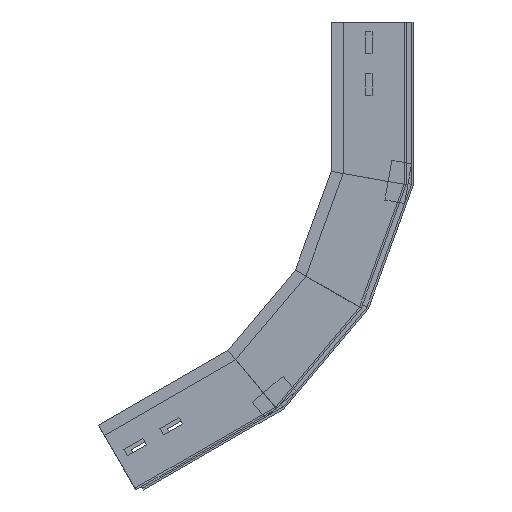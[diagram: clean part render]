
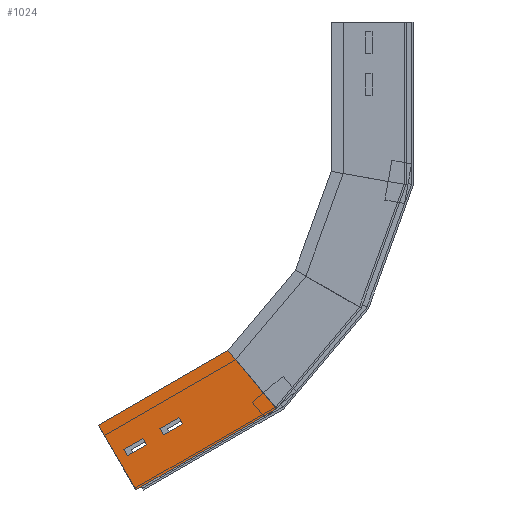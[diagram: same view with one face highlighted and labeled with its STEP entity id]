
A CAD part, left-side view. The second image highlights one B-rep face of the part: STEP entity #1024.
In plain terms, the highlighted planar face has unit normal (-1, 0, 0) as drawn and (1, 0, 0) by its records, which use the part's own axes.
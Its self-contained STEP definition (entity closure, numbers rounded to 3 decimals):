
#3 = LINE ( 'NONE', #776, #1144 ) ;
#17 = VERTEX_POINT ( 'NONE', #1045 ) ;
#27 = VECTOR ( 'NONE', #1409, 1000. ) ;
#28 = VERTEX_POINT ( 'NONE', #900 ) ;
#36 = DIRECTION ( 'NONE',  ( 0., 0., -1. ) ) ;
#54 = EDGE_CURVE ( 'NONE', #643, #1317, #1311, .T. ) ;
#96 = FACE_BOUND ( 'NONE', #757, .T. ) ;
#109 = CARTESIAN_POINT ( 'NONE',  ( 0., 41., -51.505 ) ) ;
#110 = ORIENTED_EDGE ( 'NONE', *, *, #155, .T. ) ;
#114 = CARTESIAN_POINT ( 'NONE',  ( 0., 0., 0. ) ) ;
#123 = VECTOR ( 'NONE', #400, 1000. ) ;
#137 = DIRECTION ( 'NONE',  ( 0., 0., 1. ) ) ;
#148 = EDGE_CURVE ( 'NONE', #615, #28, #685, .T. ) ;
#155 = EDGE_CURVE ( 'NONE', #1317, #1610, #1662, .T. ) ;
#203 = EDGE_CURVE ( 'NONE', #581, #17, #861, .T. ) ;
#210 = VERTEX_POINT ( 'NONE', #1642 ) ;
#221 = ORIENTED_EDGE ( 'NONE', *, *, #290, .T. ) ;
#230 = ORIENTED_EDGE ( 'NONE', *, *, #1547, .T. ) ;
#234 = ORIENTED_EDGE ( 'NONE', *, *, #945, .T. ) ;
#257 = DIRECTION ( 'NONE',  ( -1., 0., 0. ) ) ;
#273 = LINE ( 'NONE', #1546, #1538 ) ;
#290 = EDGE_CURVE ( 'NONE', #210, #643, #371, .T. ) ;
#306 = CARTESIAN_POINT ( 'NONE',  ( 0., 34., -31.835 ) ) ;
#307 = EDGE_CURVE ( 'NONE', #1617, #870, #3, .T. ) ;
#314 = VECTOR ( 'NONE', #885, 1000. ) ;
#361 = DIRECTION ( 'NONE',  ( 0., 1., 0. ) ) ;
#365 = CARTESIAN_POINT ( 'NONE',  ( 0., 0., 0. ) ) ;
#371 = LINE ( 'NONE', #1047, #1505 ) ;
#394 = DIRECTION ( 'NONE',  ( 0., 0., 1. ) ) ;
#400 = DIRECTION ( 'NONE',  ( 0., 0., -1. ) ) ;
#411 = VECTOR ( 'NONE', #1026, 1000. ) ;
#416 = LINE ( 'NONE', #661, #123 ) ;
#421 = CARTESIAN_POINT ( 'NONE',  ( 0., 41., -9.835 ) ) ;
#435 = EDGE_CURVE ( 'NONE', #581, #870, #416, .T. ) ;
#486 = CARTESIAN_POINT ( 'NONE',  ( 0., 41., -9.835 ) ) ;
#505 = CARTESIAN_POINT ( 'NONE',  ( 0., 75., 0. ) ) ;
#506 = ORIENTED_EDGE ( 'NONE', *, *, #307, .F. ) ;
#514 = EDGE_CURVE ( 'NONE', #1470, #1218, #1666, .T. ) ;
#535 = VECTOR ( 'NONE', #1005, 1000. ) ;
#549 = ORIENTED_EDGE ( 'NONE', *, *, #603, .F. ) ;
#553 = ORIENTED_EDGE ( 'NONE', *, *, #1399, .T. ) ;
#581 = VERTEX_POINT ( 'NONE', #365 ) ;
#603 = EDGE_CURVE ( 'NONE', #17, #1617, #1150, .T. ) ;
#615 = VERTEX_POINT ( 'NONE', #1083 ) ;
#635 = DIRECTION ( 'NONE',  ( 0., 0., 1. ) ) ;
#638 = ORIENTED_EDGE ( 'NONE', *, *, #514, .T. ) ;
#643 = VERTEX_POINT ( 'NONE', #680 ) ;
#661 = CARTESIAN_POINT ( 'NONE',  ( 0., 0., 0. ) ) ;
#680 = CARTESIAN_POINT ( 'NONE',  ( 0., 34., -51.505 ) ) ;
#685 = LINE ( 'NONE', #421, #746 ) ;
#746 = VECTOR ( 'NONE', #36, 1000. ) ;
#757 = EDGE_LOOP ( 'NONE', ( #1663, #110, #234, #221 ) ) ;
#776 = CARTESIAN_POINT ( 'NONE',  ( 0., 27.875, -158.085 ) ) ;
#805 = CARTESIAN_POINT ( 'NONE',  ( 0., 41., -51.505 ) ) ;
#861 = LINE ( 'NONE', #1362, #1322 ) ;
#864 = CARTESIAN_POINT ( 'NONE',  ( 0., 75., -149.775 ) ) ;
#870 = VERTEX_POINT ( 'NONE', #1223 ) ;
#879 = CARTESIAN_POINT ( 'NONE',  ( 0., 34., -9.835 ) ) ;
#885 = DIRECTION ( 'NONE',  ( 0., 0., -1. ) ) ;
#896 = CARTESIAN_POINT ( 'NONE',  ( 0., 41., -73.505 ) ) ;
#900 = CARTESIAN_POINT ( 'NONE',  ( 0., 41., -31.835 ) ) ;
#945 = EDGE_CURVE ( 'NONE', #1610, #210, #1013, .T. ) ;
#958 = CARTESIAN_POINT ( 'NONE',  ( 0., 41., -51.505 ) ) ;
#979 = EDGE_LOOP ( 'NONE', ( #230, #1224, #553, #638 ) ) ;
#1005 = DIRECTION ( 'NONE',  ( 0., 1., 0. ) ) ;
#1013 = LINE ( 'NONE', #896, #27 ) ;
#1018 = FACE_OUTER_BOUND ( 'NONE', #1139, .T. ) ;
#1023 = CARTESIAN_POINT ( 'NONE',  ( 0., 41., -73.505 ) ) ;
#1024 = ADVANCED_FACE ( 'NONE', ( #96, #1018, #1277 ), #1114, .F. ) ;
#1026 = DIRECTION ( 'NONE',  ( 0., 0., -1. ) ) ;
#1045 = CARTESIAN_POINT ( 'NONE',  ( 0., 75., 0. ) ) ;
#1047 = CARTESIAN_POINT ( 'NONE',  ( 0., 34., -51.505 ) ) ;
#1083 = CARTESIAN_POINT ( 'NONE',  ( 0., 41., -9.835 ) ) ;
#1114 = PLANE ( 'NONE',  #1436 ) ;
#1139 = EDGE_LOOP ( 'NONE', ( #549, #1622, #1625, #506 ) ) ;
#1144 = VECTOR ( 'NONE', #1320, 1000. ) ;
#1150 = LINE ( 'NONE', #505, #411 ) ;
#1218 = VERTEX_POINT ( 'NONE', #1345 ) ;
#1223 = CARTESIAN_POINT ( 'NONE',  ( 0., 0., -163. ) ) ;
#1224 = ORIENTED_EDGE ( 'NONE', *, *, #148, .T. ) ;
#1256 = LINE ( 'NONE', #486, #535 ) ;
#1277 = FACE_BOUND ( 'NONE', #979, .T. ) ;
#1311 = LINE ( 'NONE', #805, #1560 ) ;
#1314 = DIRECTION ( 'NONE',  ( 0., -1., 0. ) ) ;
#1317 = VERTEX_POINT ( 'NONE', #958 ) ;
#1319 = DIRECTION ( 'NONE',  ( 0., 1., 0. ) ) ;
#1320 = DIRECTION ( 'NONE',  ( 0., -0.985, -0.174 ) ) ;
#1322 = VECTOR ( 'NONE', #361, 1000. ) ;
#1345 = CARTESIAN_POINT ( 'NONE',  ( 0., 34., -9.835 ) ) ;
#1362 = CARTESIAN_POINT ( 'NONE',  ( 0., 0., 0. ) ) ;
#1399 = EDGE_CURVE ( 'NONE', #28, #1470, #273, .T. ) ;
#1402 = VECTOR ( 'NONE', #394, 1000. ) ;
#1409 = DIRECTION ( 'NONE',  ( 0., -1., 0. ) ) ;
#1436 = AXIS2_PLACEMENT_3D ( 'NONE', #114, #257, #635 ) ;
#1470 = VERTEX_POINT ( 'NONE', #306 ) ;
#1505 = VECTOR ( 'NONE', #137, 1000. ) ;
#1538 = VECTOR ( 'NONE', #1314, 1000. ) ;
#1546 = CARTESIAN_POINT ( 'NONE',  ( 0., 41., -31.835 ) ) ;
#1547 = EDGE_CURVE ( 'NONE', #1218, #615, #1256, .T. ) ;
#1560 = VECTOR ( 'NONE', #1319, 1000. ) ;
#1610 = VERTEX_POINT ( 'NONE', #1023 ) ;
#1617 = VERTEX_POINT ( 'NONE', #864 ) ;
#1622 = ORIENTED_EDGE ( 'NONE', *, *, #203, .F. ) ;
#1625 = ORIENTED_EDGE ( 'NONE', *, *, #435, .T. ) ;
#1642 = CARTESIAN_POINT ( 'NONE',  ( 0., 34., -73.505 ) ) ;
#1662 = LINE ( 'NONE', #109, #314 ) ;
#1663 = ORIENTED_EDGE ( 'NONE', *, *, #54, .T. ) ;
#1666 = LINE ( 'NONE', #879, #1402 ) ;
